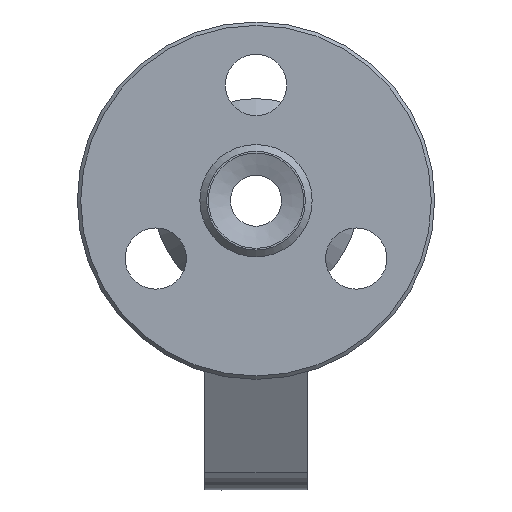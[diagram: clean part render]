
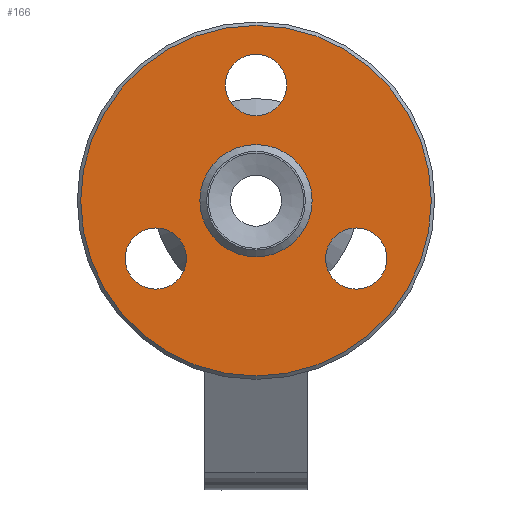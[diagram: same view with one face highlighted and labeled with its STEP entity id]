
A CAD part, left-side view. The second image highlights one B-rep face of the part: STEP entity #166.
In plain terms, the highlighted planar face has unit normal (-1, 0, 0).
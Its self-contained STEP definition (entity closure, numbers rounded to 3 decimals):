
#166=ADVANCED_FACE('',(#1353,#1355,#1357,#1359,#1361),#1363,.T.);
#1353=FACE_BOUND('',#1354,.T.);
#1354=EDGE_LOOP('',(#2310));
#1355=FACE_BOUND('',#1356,.T.);
#1356=EDGE_LOOP('',(#2311));
#1357=FACE_BOUND('',#1358,.T.);
#1358=EDGE_LOOP('',(#2312));
#1359=FACE_BOUND('',#1360,.T.);
#1360=EDGE_LOOP('',(#2313));
#1361=FACE_OUTER_BOUND('',#1362,.T.);
#1362=EDGE_LOOP('',(#2314));
#1363=PLANE('',#1364);
#1364=AXIS2_PLACEMENT_3D('',#1365,#1366,#1367);
#1365=CARTESIAN_POINT('',(-89.492,0.,0.));
#1366=DIRECTION('',(-1.,0.,0.));
#1367=DIRECTION('',(0.,0.,1.));
#2310=ORIENTED_EDGE('',*,*,#3193,.T.);
#2311=ORIENTED_EDGE('',*,*,#3194,.T.);
#2312=ORIENTED_EDGE('',*,*,#3195,.T.);
#2313=ORIENTED_EDGE('',*,*,#3178,.F.);
#2314=ORIENTED_EDGE('',*,*,#3196,.F.);
#3178=EDGE_CURVE('',#3579,#3579,#3580,.F.);
#3193=EDGE_CURVE('',#3607,#3607,#3608,.F.);
#3194=EDGE_CURVE('',#3609,#3609,#3610,.F.);
#3195=EDGE_CURVE('',#3611,#3611,#3612,.F.);
#3196=EDGE_CURVE('',#3613,#3613,#3614,.T.);
#3579=VERTEX_POINT('',#5406);
#3580=CIRCLE('',#5407,16.5);
#3607=VERTEX_POINT('',#5470);
#3608=CIRCLE('',#5471,9.);
#3609=VERTEX_POINT('',#5475);
#3610=CIRCLE('',#5476,9.);
#3611=VERTEX_POINT('',#5480);
#3612=CIRCLE('',#5481,9.);
#3613=VERTEX_POINT('',#5485);
#3614=CIRCLE('',#5486,51.5);
#5406=CARTESIAN_POINT('',(-89.492,0.,-16.5));
#5407=AXIS2_PLACEMENT_3D('',#5408,#5409,#5410);
#5408=CARTESIAN_POINT('',(-89.492,0.,0.));
#5409=DIRECTION('',(1.,0.,0.));
#5410=DIRECTION('',(0.,0.,-1.));
#5470=CARTESIAN_POINT('',(-89.492,9.,34.));
#5471=AXIS2_PLACEMENT_3D('',#5472,#5473,#5474);
#5472=CARTESIAN_POINT('',(-89.492,0.,34.));
#5473=DIRECTION('',(-1.,0.,0.));
#5474=DIRECTION('',(0.,1.,0.));
#5475=CARTESIAN_POINT('',(-89.492,24.945,-24.794));
#5476=AXIS2_PLACEMENT_3D('',#5477,#5478,#5479);
#5477=CARTESIAN_POINT('',(-89.492,29.445,-17.));
#5478=DIRECTION('',(-1.,0.,0.));
#5479=DIRECTION('',(0.,-0.5,-0.866));
#5480=CARTESIAN_POINT('',(-89.492,-33.945,-9.206));
#5481=AXIS2_PLACEMENT_3D('',#5482,#5483,#5484);
#5482=CARTESIAN_POINT('',(-89.492,-29.445,-17.));
#5483=DIRECTION('',(-1.,0.,0.));
#5484=DIRECTION('',(0.,-0.5,0.866));
#5485=CARTESIAN_POINT('',(-89.492,0.,51.5));
#5486=AXIS2_PLACEMENT_3D('',#5487,#5488,#5489);
#5487=CARTESIAN_POINT('',(-89.492,0.,0.));
#5488=DIRECTION('',(1.,0.,0.));
#5489=DIRECTION('',(0.,0.,1.));
